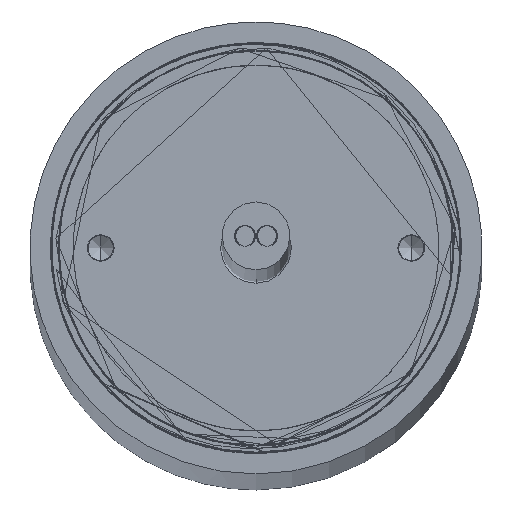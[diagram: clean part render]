
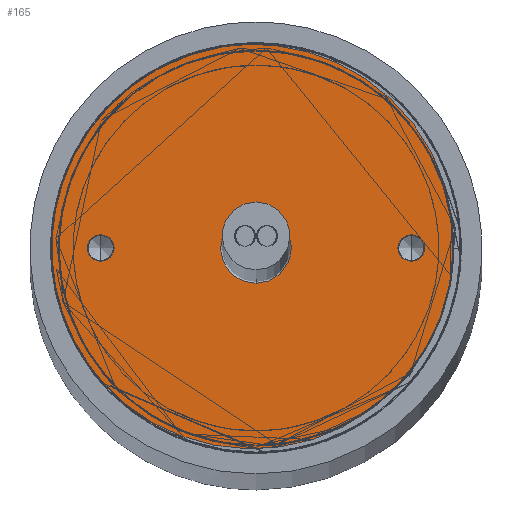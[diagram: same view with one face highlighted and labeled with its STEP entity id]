
A CAD part, top view. The second image highlights one B-rep face of the part: STEP entity #165.
In plain terms, the highlighted planar face has unit normal (0, 0, 1) as drawn and (0, 1, 0) by its records, which use the part's own axes.
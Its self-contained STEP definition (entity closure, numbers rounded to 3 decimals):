
#36=FACE_BOUND('',#430,.T.);
#37=FACE_BOUND('',#431,.T.);
#38=FACE_BOUND('',#432,.T.);
#165=ADVANCED_FACE('',(#294,#36,#37,#38),#1934,.T.);
#294=FACE_OUTER_BOUND('',#429,.T.);
#429=EDGE_LOOP('',(#951,#952));
#430=EDGE_LOOP('',(#953,#954));
#431=EDGE_LOOP('',(#955,#956));
#432=EDGE_LOOP('',(#957,#958));
#951=ORIENTED_EDGE('',*,*,#1342,.F.);
#952=ORIENTED_EDGE('',*,*,#1339,.F.);
#953=ORIENTED_EDGE('',*,*,#1303,.T.);
#954=ORIENTED_EDGE('',*,*,#1380,.T.);
#955=ORIENTED_EDGE('',*,*,#1307,.T.);
#956=ORIENTED_EDGE('',*,*,#1379,.T.);
#957=ORIENTED_EDGE('',*,*,#1313,.T.);
#958=ORIENTED_EDGE('',*,*,#1377,.T.);
#1303=EDGE_CURVE('',#1862,#1861,#1659,.T.);
#1307=EDGE_CURVE('',#1866,#1865,#1661,.T.);
#1313=EDGE_CURVE('',#1871,#1870,#1663,.T.);
#1339=EDGE_CURVE('',#1903,#1904,#1669,.T.);
#1342=EDGE_CURVE('',#1904,#1903,#1671,.T.);
#1377=EDGE_CURVE('',#1870,#1871,#1700,.T.);
#1379=EDGE_CURVE('',#1865,#1866,#1702,.T.);
#1380=EDGE_CURVE('',#1861,#1862,#1703,.T.);
#1659=(
BOUNDED_CURVE()
B_SPLINE_CURVE(2,(#8405,#8406,#8407,#8408,#8409),.UNSPECIFIED.,.F.,.F.)
B_SPLINE_CURVE_WITH_KNOTS((3,2,3),(-7.854,-3.927,
0.),.UNSPECIFIED.)
CURVE()
GEOMETRIC_REPRESENTATION_ITEM()
RATIONAL_B_SPLINE_CURVE((1.,0.707,1.,0.707,1.))
REPRESENTATION_ITEM('')
);
#1661=(
BOUNDED_CURVE()
B_SPLINE_CURVE(2,(#8419,#8420,#8421,#8422,#8423),.UNSPECIFIED.,.F.,.F.)
B_SPLINE_CURVE_WITH_KNOTS((3,2,3),(-2.985,-1.492,0.),
 .UNSPECIFIED.)
CURVE()
GEOMETRIC_REPRESENTATION_ITEM()
RATIONAL_B_SPLINE_CURVE((1.,0.707,1.,0.707,1.))
REPRESENTATION_ITEM('')
);
#1663=(
BOUNDED_CURVE()
B_SPLINE_CURVE(2,(#8437,#8438,#8439,#8440,#8441),.UNSPECIFIED.,.F.,.F.)
B_SPLINE_CURVE_WITH_KNOTS((3,2,3),(-2.985,-1.492,0.),
 .UNSPECIFIED.)
CURVE()
GEOMETRIC_REPRESENTATION_ITEM()
RATIONAL_B_SPLINE_CURVE((1.,0.707,1.,0.707,1.))
REPRESENTATION_ITEM('')
);
#1669=(
BOUNDED_CURVE()
B_SPLINE_CURVE(2,(#8505,#8506,#8507,#8508,#8509),.UNSPECIFIED.,.F.,.F.)
B_SPLINE_CURVE_WITH_KNOTS((3,2,3),(0.,22.698,45.396),
 .UNSPECIFIED.)
CURVE()
GEOMETRIC_REPRESENTATION_ITEM()
RATIONAL_B_SPLINE_CURVE((1.,0.707,1.,0.707,1.))
REPRESENTATION_ITEM('')
);
#1671=(
BOUNDED_CURVE()
B_SPLINE_CURVE(2,(#8517,#8518,#8519,#8520,#8521),.UNSPECIFIED.,.F.,.F.)
B_SPLINE_CURVE_WITH_KNOTS((3,2,3),(0.,22.698,45.396),
 .UNSPECIFIED.)
CURVE()
GEOMETRIC_REPRESENTATION_ITEM()
RATIONAL_B_SPLINE_CURVE((1.,0.707,1.,0.707,1.))
REPRESENTATION_ITEM('')
);
#1700=(
BOUNDED_CURVE()
B_SPLINE_CURVE(2,(#8896,#8897,#8898,#8899,#8900),.UNSPECIFIED.,.F.,.F.)
B_SPLINE_CURVE_WITH_KNOTS((3,2,3),(-2.985,-1.492,0.),
 .UNSPECIFIED.)
CURVE()
GEOMETRIC_REPRESENTATION_ITEM()
RATIONAL_B_SPLINE_CURVE((1.,0.707,1.,0.707,1.))
REPRESENTATION_ITEM('')
);
#1702=(
BOUNDED_CURVE()
B_SPLINE_CURVE(2,(#8906,#8907,#8908,#8909,#8910),.UNSPECIFIED.,.F.,.F.)
B_SPLINE_CURVE_WITH_KNOTS((3,2,3),(-2.985,-1.492,0.),
 .UNSPECIFIED.)
CURVE()
GEOMETRIC_REPRESENTATION_ITEM()
RATIONAL_B_SPLINE_CURVE((1.,0.707,1.,0.707,1.))
REPRESENTATION_ITEM('')
);
#1703=(
BOUNDED_CURVE()
B_SPLINE_CURVE(2,(#8911,#8912,#8913,#8914,#8915),.UNSPECIFIED.,.F.,.F.)
B_SPLINE_CURVE_WITH_KNOTS((3,2,3),(-7.854,-3.927,
0.),.UNSPECIFIED.)
CURVE()
GEOMETRIC_REPRESENTATION_ITEM()
RATIONAL_B_SPLINE_CURVE((1.,0.707,1.,0.707,1.))
REPRESENTATION_ITEM('')
);
#1861=VERTEX_POINT('',#8322);
#1862=VERTEX_POINT('',#8323);
#1865=VERTEX_POINT('',#8326);
#1866=VERTEX_POINT('',#8327);
#1870=VERTEX_POINT('',#8331);
#1871=VERTEX_POINT('',#8332);
#1903=VERTEX_POINT('',#8364);
#1904=VERTEX_POINT('',#8365);
#1934=PLANE('',#2170);
#2170=AXIS2_PLACEMENT_3D('',#7658,#2208,$);
#2208=DIRECTION('',(0.,1.,0.));
#7658=CARTESIAN_POINT('',(-17.34,0.9,-17.34));
#8322=CARTESIAN_POINT('',(0.,0.9,-2.5));
#8323=CARTESIAN_POINT('',(0.,0.9,2.5));
#8326=CARTESIAN_POINT('',(-11.,0.9,-0.95));
#8327=CARTESIAN_POINT('',(-11.,0.9,0.95));
#8331=CARTESIAN_POINT('',(11.,0.9,-0.95));
#8332=CARTESIAN_POINT('',(11.,0.9,0.95));
#8364=CARTESIAN_POINT('',(0.,0.9,-14.45));
#8365=CARTESIAN_POINT('',(0.,0.9,14.45));
#8405=CARTESIAN_POINT('',(0.,0.9,2.5));
#8406=CARTESIAN_POINT('',(-2.5,0.9,2.5));
#8407=CARTESIAN_POINT('',(-2.5,0.9,0.));
#8408=CARTESIAN_POINT('',(-2.5,0.9,-2.5));
#8409=CARTESIAN_POINT('',(0.,0.9,-2.5));
#8419=CARTESIAN_POINT('',(-11.,0.9,0.95));
#8420=CARTESIAN_POINT('',(-11.95,0.9,0.95));
#8421=CARTESIAN_POINT('',(-11.95,0.9,0.));
#8422=CARTESIAN_POINT('',(-11.95,0.9,-0.95));
#8423=CARTESIAN_POINT('',(-11.,0.9,-0.95));
#8437=CARTESIAN_POINT('',(11.,0.9,0.95));
#8438=CARTESIAN_POINT('',(10.05,0.9,0.95));
#8439=CARTESIAN_POINT('',(10.05,0.9,0.));
#8440=CARTESIAN_POINT('',(10.05,0.9,-0.95));
#8441=CARTESIAN_POINT('',(11.,0.9,-0.95));
#8505=CARTESIAN_POINT('',(0.,0.9,-14.45));
#8506=CARTESIAN_POINT('',(14.45,0.9,-14.45));
#8507=CARTESIAN_POINT('',(14.45,0.9,0.));
#8508=CARTESIAN_POINT('',(14.45,0.9,14.45));
#8509=CARTESIAN_POINT('',(0.,0.9,14.45));
#8517=CARTESIAN_POINT('',(0.,0.9,14.45));
#8518=CARTESIAN_POINT('',(-14.45,0.9,14.45));
#8519=CARTESIAN_POINT('',(-14.45,0.9,0.));
#8520=CARTESIAN_POINT('',(-14.45,0.9,-14.45));
#8521=CARTESIAN_POINT('',(0.,0.9,-14.45));
#8896=CARTESIAN_POINT('',(11.,0.9,-0.95));
#8897=CARTESIAN_POINT('',(11.95,0.9,-0.95));
#8898=CARTESIAN_POINT('',(11.95,0.9,0.));
#8899=CARTESIAN_POINT('',(11.95,0.9,0.95));
#8900=CARTESIAN_POINT('',(11.,0.9,0.95));
#8906=CARTESIAN_POINT('',(-11.,0.9,-0.95));
#8907=CARTESIAN_POINT('',(-10.05,0.9,-0.95));
#8908=CARTESIAN_POINT('',(-10.05,0.9,0.));
#8909=CARTESIAN_POINT('',(-10.05,0.9,0.95));
#8910=CARTESIAN_POINT('',(-11.,0.9,0.95));
#8911=CARTESIAN_POINT('',(0.,0.9,-2.5));
#8912=CARTESIAN_POINT('',(2.5,0.9,-2.5));
#8913=CARTESIAN_POINT('',(2.5,0.9,0.));
#8914=CARTESIAN_POINT('',(2.5,0.9,2.5));
#8915=CARTESIAN_POINT('',(0.,0.9,2.5));
